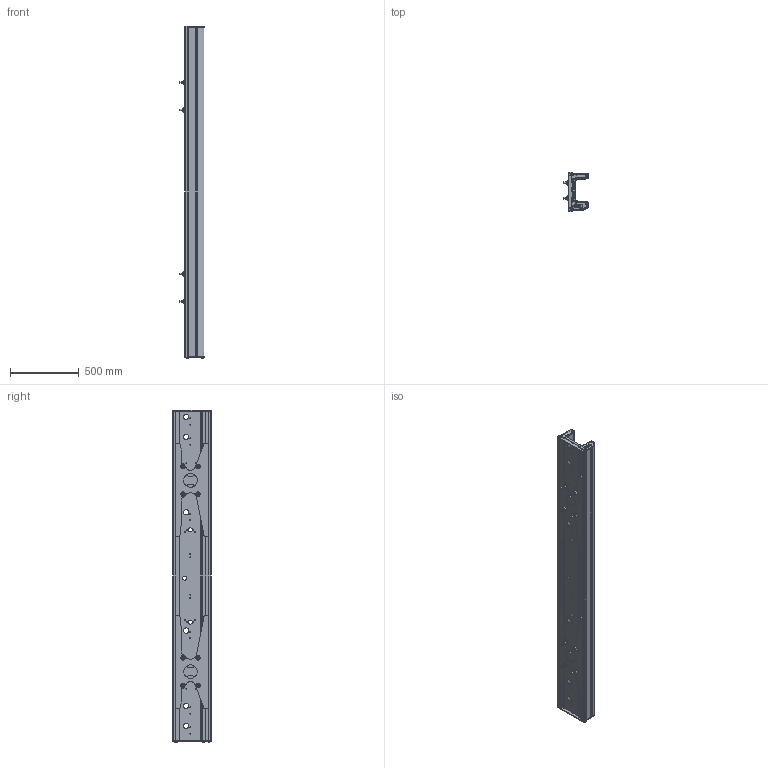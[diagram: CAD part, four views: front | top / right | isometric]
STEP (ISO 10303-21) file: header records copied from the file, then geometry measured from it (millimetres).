
FILE_DESCRIPTION(('CATIA V5 STEP Exchange','CAx-IF Rec.Pracs.--- Model Styling and Organization---1.5--- 2016-08-15','CAx-IF Rec.Pracs.---Supplemental Geometry---1.0---2011-11-01','CAx-IF Rec.Pracs.--- Composite Materials ---1.1---2010-07-15'),'2;1');
FILE_NAME('L:\Florian\data\For Melten\340384-02.stp','2024-01-10T13:18:22+00:00',('none'),('none'),'CATIA Version 5-6 Release 2020 SP3 HF39','CATIA V5 STEP AP203 Edition 2 v2','none');
FILE_SCHEMA(('AP203_CONFIGURATION_CONTROLLED_3D_DESIGN_OF_MECHANICAL_PARTS_AND_ASSEMBLIES_MIM_LF { 1 0 10303 403 3 1 4}'));
Products named in the file (1): 340384-02
Bounding box: 177 x 283.4 x 2412.4 mm (x, y, z)
Volume: 13582748.6 mm3; surface area: 5357998.3 mm2
Topology: 3 solids, 9 shells, 2202 faces, 6040 edges, 3954 vertices
Faces by surface type: cylinder 1068, plane 554, cone 298, torus 182, extrusion 72, bspline 28
Entity records: 76279 total; most frequent: CARTESIAN_POINT 23838, ORIENTED_EDGE 12048, DIRECTION 8563, EDGE_CURVE 6024, AXIS2_PLACEMENT_3D 4235, VERTEX_POINT 3954, EDGE_LOOP 2414, VECTOR 2373
